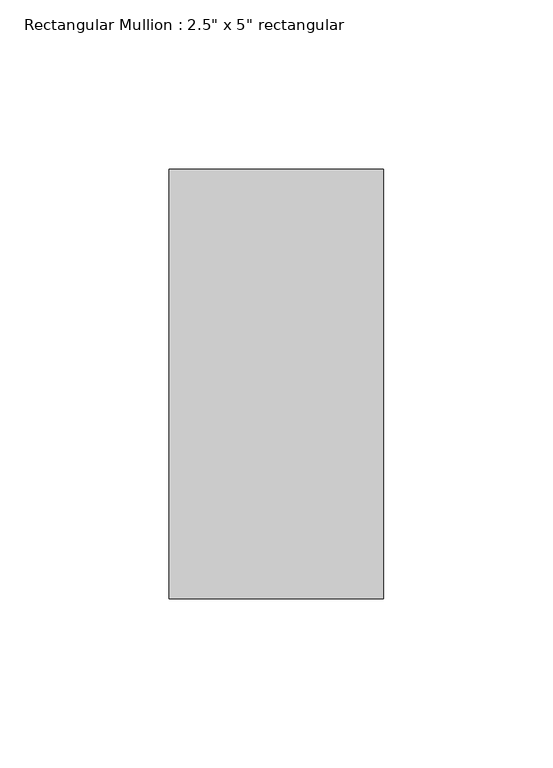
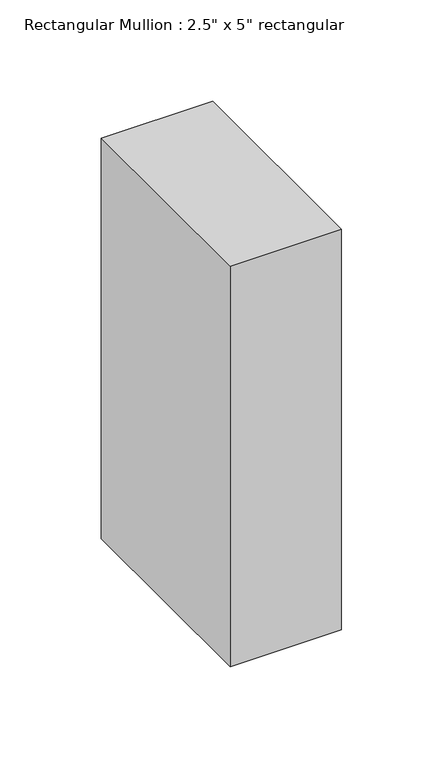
"""IFC4 building model written with IfcOpenShell, lengths in millimetres: member geometry."""

from ifc_helpers import new_model, si_unit, frame, origin, place, context, project, spatial, polyline, outline, extrude, source, transform, mapped, element, save


def member_2eb7018d(model_context):
    return source(origin(), model_context, "Body", "SweptSolid", [
        extrude(outline(polyline([(0.0, 63.5), (0.0, -63.5), (-63.5, -63.5), (-63.5, 63.5), (0.0, 63.5)])), frame((0.0, 0.0, -241.3), z_axis=(0.0, 0.0, 1.0), x_axis=(1.0, 0.0, 0.0)), (0.0, 0.0, 1.0), 241.3),
    ])


if __name__ == "__main__":
    model = new_model("IFC4")
    model_context = context("Model", 3, world=origin())
    ifc_project = project(units=[si_unit("LENGTHUNIT", "METRE", prefix="MILLI")], contexts=[model_context])
    site = spatial("IfcSite", under=ifc_project)
    building = spatial("IfcBuilding", under=site)
    placement = place(None, origin())
    member_shape = member_2eb7018d(model_context)
    element("IfcMember", 1, ObjectType="Rectangular Mullion : 2.5\" x 5\" rectangular", at=placement, inside=building, context=model_context, shape_type="MappedRepresentation", body=[
        mapped(member_shape, transform((0.0, 0.0, 0.0), x_axis=(1.0, 0.0, 0.0), y_axis=(0.0, 1.0, 0.0), z_axis=(0.0, 0.0, 1.0))),
    ])
    save(model, "model.ifc")
